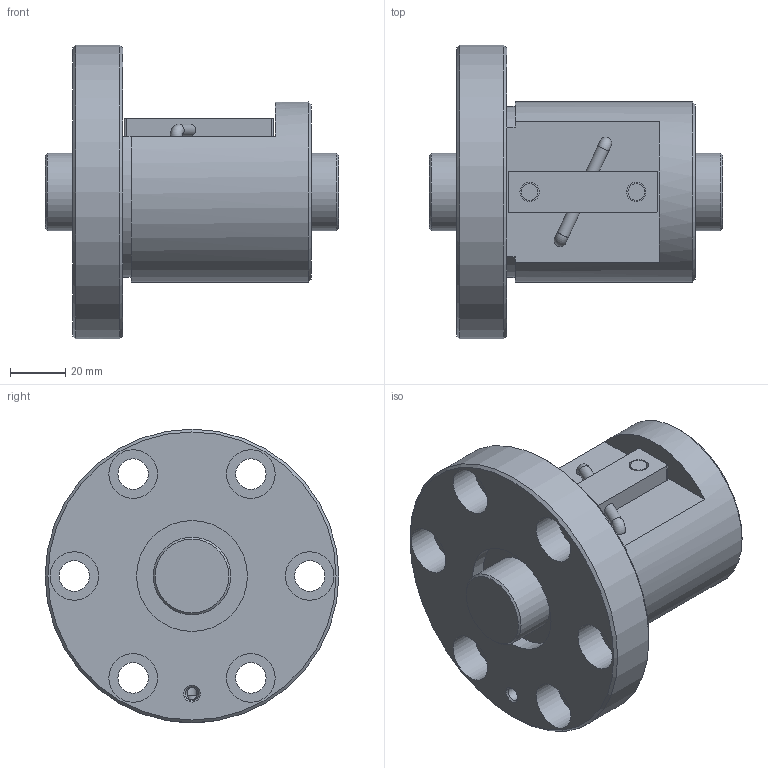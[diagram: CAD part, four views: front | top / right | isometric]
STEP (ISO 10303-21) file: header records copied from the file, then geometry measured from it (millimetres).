
FILE_DESCRIPTION(/* description */ ('STEP AP203'),/* implementation_level */ '2;1');
FILE_NAME(/* name */ 'BNF2810V-2.5RRG1+106LC0_000_rev',/* time_stamp */ '2024-08-06T07:30:58+02:00',/* author */ ('License CC BY-ND 4.0'),/* organization */ ('CADENAS'),/* preprocessor_version */ 'ST-DEVELOPER v19.3',/* originating_system */ 'PARTsolutions',/* authorisation */ ' ');
FILE_SCHEMA (('CONFIG_CONTROL_DESIGN'));
Length unit declared in the file: millimetre
Products named in the file (3): BNF2810V-2.5RRG1+106LC0_000_rev; BNF 2810-2.5RR000 Shaft; BNF 2810-2.5RR Nut
Assembly tree (2 placements, depth 2):
  BNF2810V-2.5RRG1+106LC0_000_rev
    BNF 2810-2.5RR000 Shaft
    BNF 2810-2.5RR Nut
Bounding box: 106 x 106 x 106 mm (x, y, z)
Volume: 349600 mm3; surface area: 61052.5 mm2
Topology: 2 solids, 2 shells, 69 faces, 148 edges, 96 vertices
Faces by surface type: cylinder 33, plane 27, cone 7, torus 2
Full cylindrical faces by diameter (mm): 4.331 x2, 4.5 x2, 4.917 x1, 6 x2, 7 x2, 11 x6, 17.5 x6, 28 x2, 40 x2, 65 x1, 106 x1
Entity records: 1755 total; most frequent: DIRECTION 312, CARTESIAN_POINT 296, ORIENTED_EDGE 200, AXIS2_PLACEMENT_3D 144, EDGE_LOOP 140, FACE_BOUND 140, EDGE_CURVE 100, VERTEX_POINT 86
